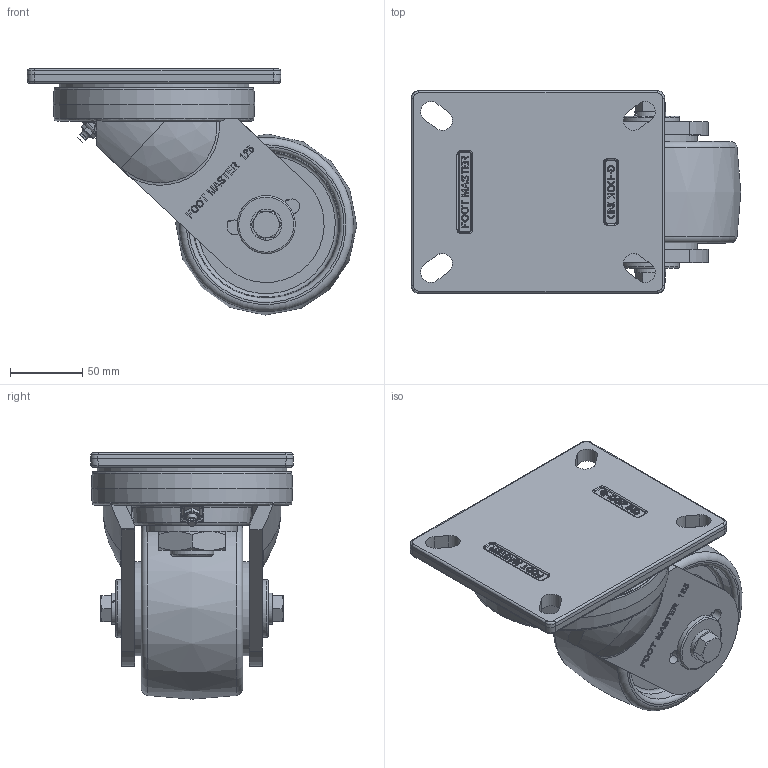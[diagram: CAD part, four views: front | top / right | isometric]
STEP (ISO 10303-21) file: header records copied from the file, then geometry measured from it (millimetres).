
FILE_DESCRIPTION(/* description */ (''),/* implementation_level */ '2;1');
FILE_NAME(/* name */ 'Y:\1.기술연구소\2.연구개발 진행중\133.고하중캐스터 브레이크 타입 변경건_2025.11.03\1.도면\4.홈페이지용 도면\01. 3D\GXT-125 SERIES\GXT-125-STEP\GXT-125-ASF-NYD.stp',/* time_stamp */ '2026-07-22T10:34:19+09:00',/* author */ ('장용하'),/* organization */ (''),/* preprocessor_version */ 'ST-DEVELOPER v18.1',/* originating_system */ 'Autodesk Inventor 2021',/* authorisation */ '');
FILE_SCHEMA (('CONFIG_CONTROL_DESIGN'));
Length unit declared in the file: millimetre
Products named in the file (1): GXT-125-ASF-NYD
Bounding box: 227.5 x 140 x 170 mm (x, y, z)
Volume: 1712254.5 mm3; surface area: 174139.8 mm2
Topology: 1 solids, 1 shells, 1280 faces, 3472 edges, 2288 vertices
Faces by surface type: plane 645, bspline 480, cylinder 94, cone 31, torus 26, sphere 4
Full cylindrical faces by diameter (mm): 12 x2, 21.5 x2, 30 x1, 40 x2, 62.5 x1, 65 x2, 131.086 x1
Entity records: 41708 total; most frequent: CARTESIAN_POINT 12500, ORIENTED_EDGE 6940, DIRECTION 4442, EDGE_CURVE 3470, VERTEX_POINT 2288, LINE 2076, VECTOR 2076, EDGE_LOOP 1396
